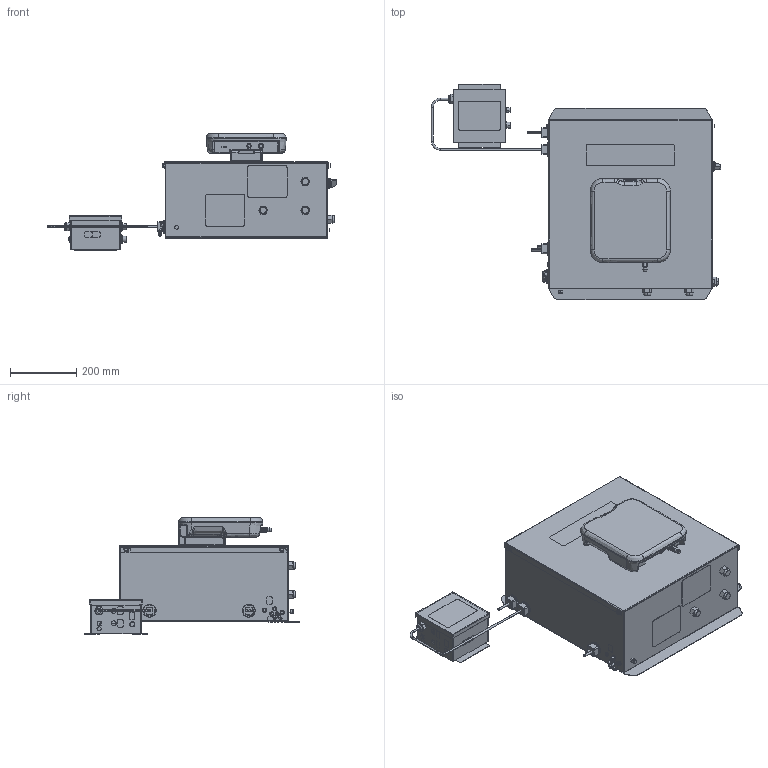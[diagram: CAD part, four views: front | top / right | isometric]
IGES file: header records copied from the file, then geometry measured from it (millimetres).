
Start section:  PTC IGES file: mc0502-en-g.igs
Global section: file name: mc0502-en-g.igs; native system: Creo Parametric by PTC Inc.; preprocessor: 2021072; author: qtmwp1; organization: Unknown; date: 20231107.144041; units: inch
Bounding box: 874.04 x 650.24 x 352.55 mm (x, y, z)
Surface area: 1885478.5 mm2 (no closed solid volume)
Topology: 0 solids, 0 shells, 827 faces, 4419 edges, 4418 vertices
Faces by surface type: bspline 466, revolution 361
